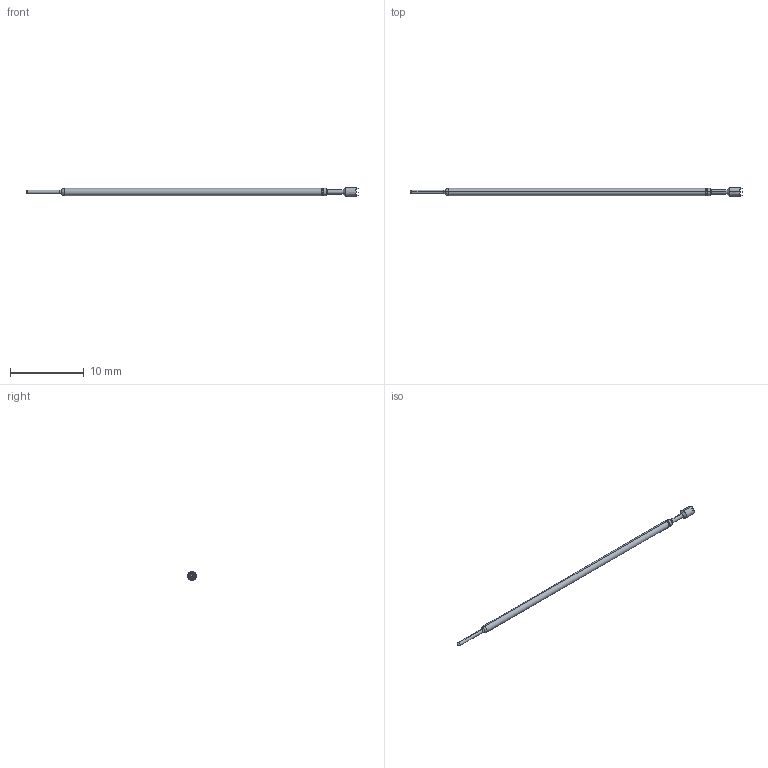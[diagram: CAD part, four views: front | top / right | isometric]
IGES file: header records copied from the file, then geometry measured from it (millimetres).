
Start section: SolidWorks IGES file using analytic representation for surfaces
Global section: file name: C:\Documents and Settings\mrumschlag\Desktop\changes\new\test\H RECD.IGS; native system: SolidWorks 2011; preprocessor: SolidWorks 2011; author: mrumschlag; date: 110630.142315; units: inch
Bounding box: 45.03 x 1.19 x 1.19 mm (x, y, z)
Surface area: 130.2 mm2 (no closed solid volume)
Topology: 0 solids, 0 shells, 55 faces, 254 edges, 252 vertices
Faces by surface type: bspline 37, revolution 18
